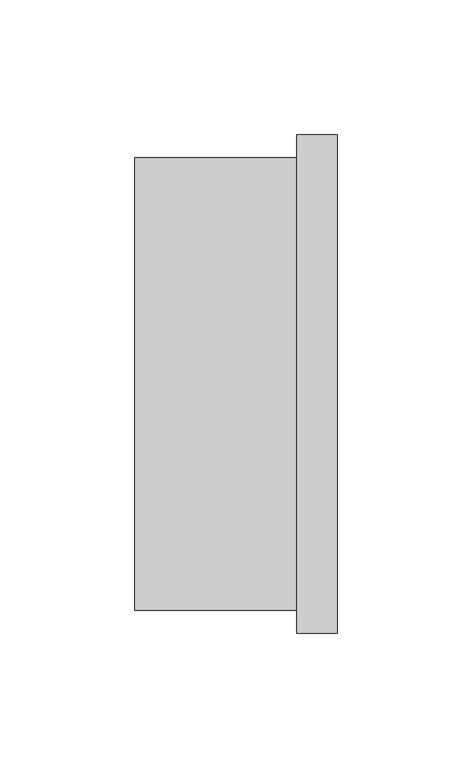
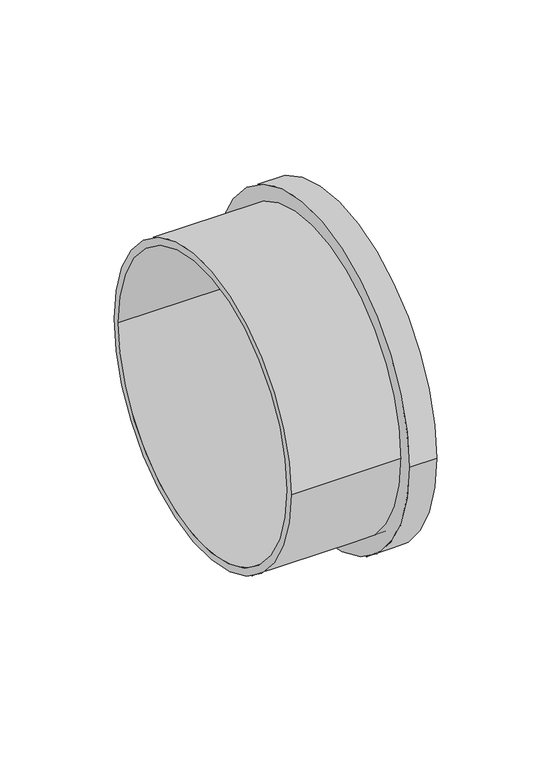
"""IFC4 building model written with IfcOpenShell, lengths in millimetres: pipe fitting geometry, Superdrain HT pipe socket : Superdrain HT pipe socket."""

from ifc_helpers import new_model, si_unit, point, frame, origin, origin_2d, place, context, project, spatial, circle_curve, trimmed, segment, composite_curve, outline, extrude, source, transform, mapped, element, save


def pipe_fitting_e509aae5(model_context):
    return source(origin(), model_context, "Body", "SweptSolid", [
        extrude(outline(composite_curve([segment(trimmed(circle_curve(origin_2d(), 84.0), [point((84.0, 0.0))], [point((-84.0, 0.0))], False, "CARTESIAN"), True, "CONTINUOUS"), segment(trimmed(circle_curve(origin_2d(), 84.0), [point((-84.0, 0.0))], [point((84.0, 0.0))], False, "CARTESIAN"), True, "CONTINUOUS")], self_intersect=False), holes=[composite_curve([segment(trimmed(circle_curve(origin_2d(), 80.0), [point((80.0, 0.0))], [point((-80.0, 0.0))], True, "CARTESIAN"), True, "CONTINUOUS"), segment(trimmed(circle_curve(origin_2d(), 80.0), [point((-80.0, 0.0))], [point((80.0, 0.0))], True, "CARTESIAN"), True, "CONTINUOUS")], self_intersect=False)]), frame((0.0, 0.0, 0.0), z_axis=(1.0, 0.0, 0.0), x_axis=(0.0, 1.0, 0.0)), (0.0, 0.0, 1.0), 75.0),
        extrude(outline(composite_curve([segment(trimmed(circle_curve(origin_2d(), 92.4), [point((92.4, 0.0))], [point((-92.4, 0.0))], False, "CARTESIAN"), True, "CONTINUOUS"), segment(trimmed(circle_curve(origin_2d(), 92.4), [point((-92.4, 0.0))], [point((92.4, 0.0))], False, "CARTESIAN"), True, "CONTINUOUS")], self_intersect=False), holes=[composite_curve([segment(trimmed(circle_curve(origin_2d(), 80.0), [point((80.0, 0.0))], [point((-80.0, 0.0))], True, "CARTESIAN"), True, "CONTINUOUS"), segment(trimmed(circle_curve(origin_2d(), 80.0), [point((-80.0, 0.0))], [point((80.0, 0.0))], True, "CARTESIAN"), True, "CONTINUOUS")], self_intersect=False)]), frame((60.0, 0.0, 0.0), z_axis=(1.0, 0.0, 0.0), x_axis=(0.0, 1.0, 0.0)), (0.0, 0.0, 1.0), 15.0),
    ])


if __name__ == "__main__":
    model = new_model("IFC4")
    model_context = context("Model", 3, world=origin())
    ifc_project = project(units=[si_unit("LENGTHUNIT", "METRE", prefix="MILLI")], contexts=[model_context])
    site = spatial("IfcSite", under=ifc_project)
    building = spatial("IfcBuilding", under=site)
    placement = place(None, origin())
    pipe_fitting_shape = pipe_fitting_e509aae5(model_context)
    element("IfcPipeFitting", 1, ObjectType="Superdrain HT pipe socket : Superdrain HT pipe socket", at=placement, inside=building, context=model_context, shape_type="MappedRepresentation", body=[
        mapped(pipe_fitting_shape, transform((0.0, 0.0, 0.0), x_axis=(1.0, 0.0, 0.0), y_axis=(0.0, 1.0, 0.0), z_axis=(0.0, 0.0, 1.0))),
    ])
    save(model, "model.ifc")
